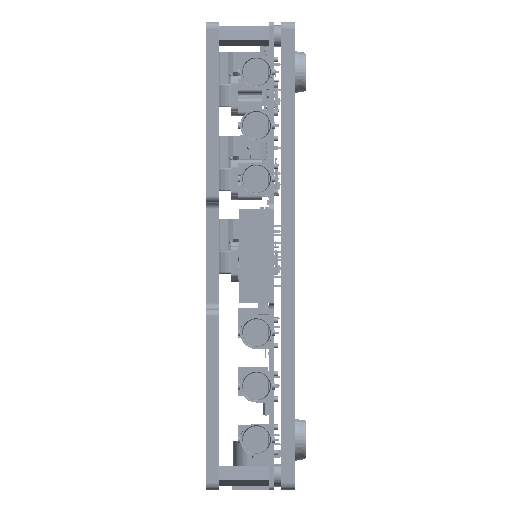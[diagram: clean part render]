
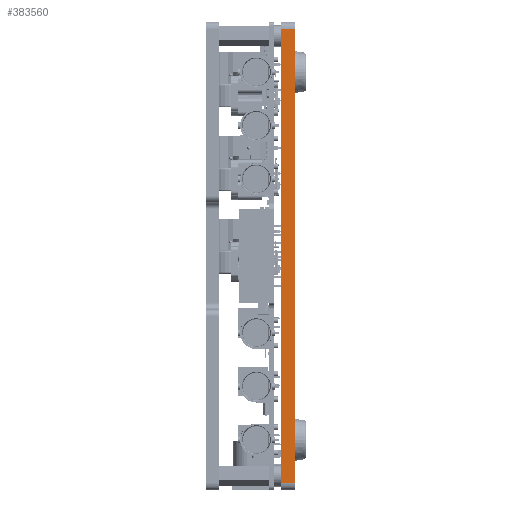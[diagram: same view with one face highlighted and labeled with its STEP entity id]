
A CAD part, left-side view. The second image highlights one B-rep face of the part: STEP entity #383560.
In plain terms, the highlighted planar face has unit normal (-1, 0, 0).
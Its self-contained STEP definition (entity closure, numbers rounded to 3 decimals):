
#17987 = DIRECTION ( 'NONE',  ( 0., -1., 0. ) ) ;
#21494 = VECTOR ( 'NONE', #17987, 1000. ) ;
#31610 = EDGE_CURVE ( 'NONE', #694630, #515519, #623391, .T. ) ;
#46045 = ORIENTED_EDGE ( 'NONE', *, *, #31610, .T. ) ;
#72833 = CARTESIAN_POINT ( 'NONE',  ( 68.866, -35.744, -27.803 ) ) ;
#102861 = CARTESIAN_POINT ( 'NONE',  ( 68.866, -35.744, -27.803 ) ) ;
#130945 = VECTOR ( 'NONE', #492841, 1000. ) ;
#135326 = LINE ( 'NONE', #674372, #331439 ) ;
#140272 = DIRECTION ( 'NONE',  ( 0., 0., 1. ) ) ;
#179161 = EDGE_LOOP ( 'NONE', ( #752815, #375120, #46045, #505429 ) ) ;
#200393 = EDGE_CURVE ( 'NONE', #515519, #375958, #135326, .T. ) ;
#203997 = DIRECTION ( 'NONE',  ( 0., 1., 0. ) ) ;
#258388 = CARTESIAN_POINT ( 'NONE',  ( 68.866, -39.744, 108.176 ) ) ;
#273884 = DIRECTION ( 'NONE',  ( 1., 0., 0. ) ) ;
#313618 = VECTOR ( 'NONE', #140272, 1000. ) ;
#331439 = VECTOR ( 'NONE', #203997, 1000. ) ;
#348748 = DIRECTION ( 'NONE',  ( 0., 0., -1. ) ) ;
#375120 = ORIENTED_EDGE ( 'NONE', *, *, #634429, .T. ) ;
#375958 = VERTEX_POINT ( 'NONE', #763119 ) ;
#382942 = FACE_OUTER_BOUND ( 'NONE', #179161, .T. ) ;
#383560 = ADVANCED_FACE ( 'NONE', ( #382942 ), #481639, .F. ) ;
#481639 = PLANE ( 'NONE',  #620103 ) ;
#487163 = CARTESIAN_POINT ( 'NONE',  ( 68.866, -35.744, 110.176 ) ) ;
#492841 = DIRECTION ( 'NONE',  ( 0., 0., 1. ) ) ;
#505429 = ORIENTED_EDGE ( 'NONE', *, *, #200393, .T. ) ;
#515519 = VERTEX_POINT ( 'NONE', #258388 ) ;
#535601 = CARTESIAN_POINT ( 'NONE',  ( 68.866, -39.744, 110.176 ) ) ;
#580520 = EDGE_CURVE ( 'NONE', #693947, #375958, #802035, .T. ) ;
#620103 = AXIS2_PLACEMENT_3D ( 'NONE', #677951, #273884, #348748 ) ;
#623391 = LINE ( 'NONE', #535601, #313618 ) ;
#634429 = EDGE_CURVE ( 'NONE', #693947, #694630, #848067, .T. ) ;
#674372 = CARTESIAN_POINT ( 'NONE',  ( 68.866, -35.744, 108.176 ) ) ;
#677951 = CARTESIAN_POINT ( 'NONE',  ( 68.866, -35.744, 110.176 ) ) ;
#684255 = CARTESIAN_POINT ( 'NONE',  ( 68.866, -39.744, -27.803 ) ) ;
#693947 = VERTEX_POINT ( 'NONE', #102861 ) ;
#694630 = VERTEX_POINT ( 'NONE', #684255 ) ;
#752815 = ORIENTED_EDGE ( 'NONE', *, *, #580520, .F. ) ;
#763119 = CARTESIAN_POINT ( 'NONE',  ( 68.866, -35.744, 108.176 ) ) ;
#802035 = LINE ( 'NONE', #487163, #130945 ) ;
#848067 = LINE ( 'NONE', #72833, #21494 ) ;
